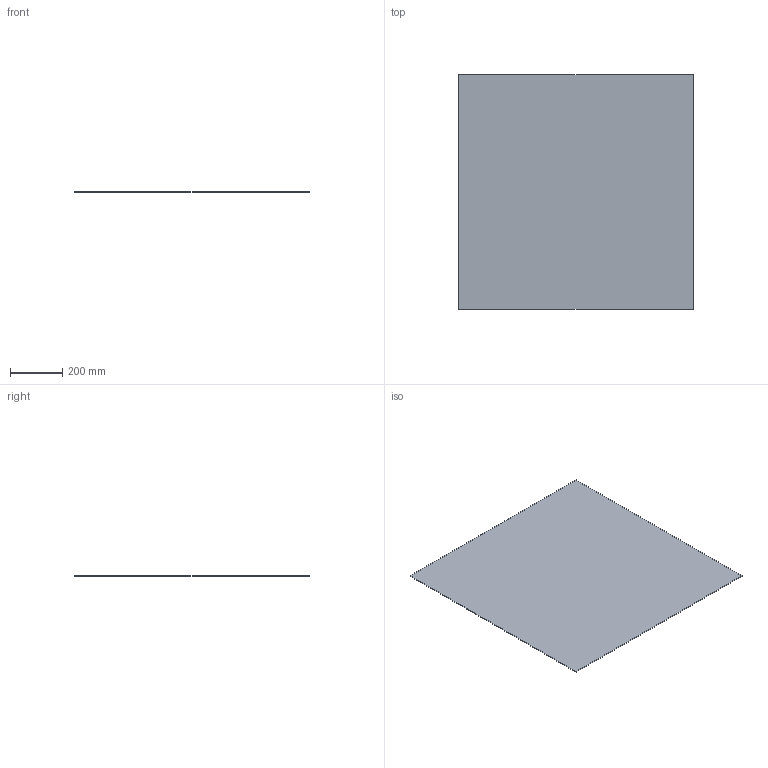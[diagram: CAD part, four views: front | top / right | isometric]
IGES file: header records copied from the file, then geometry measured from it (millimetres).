
Start section: SolidWorks IGES file using analytic representation for surfaces
Global section: file name: \\UTENTI\Dati Utenti\Tecnico\DC\2D - 3D per sito\3D superfici\DeCastelli-3D-Forma 90x90.igs; native system: SolidWorks 2022; preprocessor: SolidWorks 2022; author: Silviad; date: 240808.092959; units: millimetre
Bounding box: 900 x 900 x 2 mm (x, y, z)
Surface area: 1627200 mm2 (no closed solid volume)
Topology: 0 solids, 0 shells, 6 faces, 24 edges, 24 vertices
Faces by surface type: bspline 6
